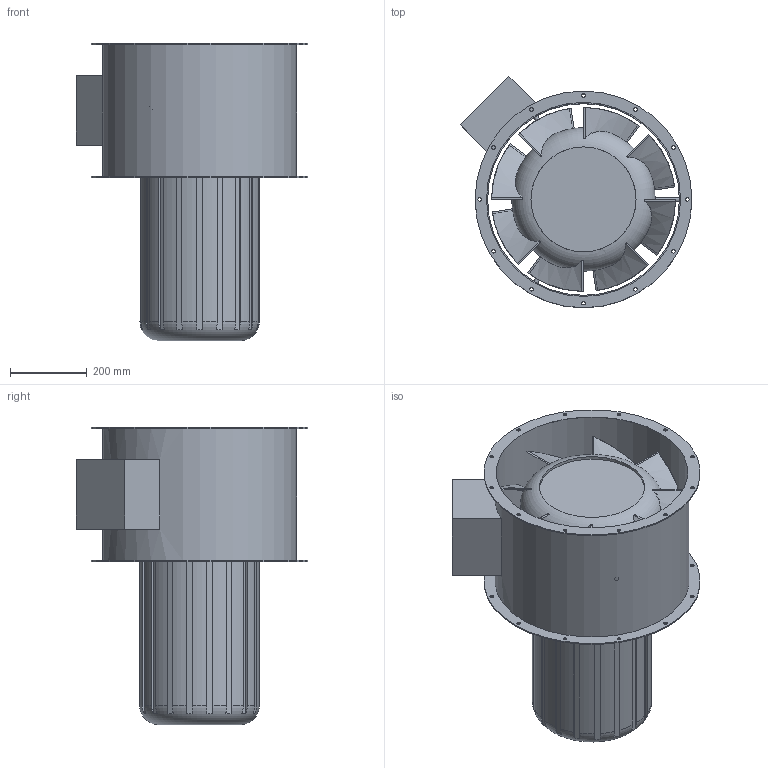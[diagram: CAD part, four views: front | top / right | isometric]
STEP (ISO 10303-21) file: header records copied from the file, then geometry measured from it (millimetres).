
FILE_DESCRIPTION(/* description */ (''),/* implementation_level */ '2;1');
FILE_NAME(/* name */ 'Z:\Output\VARD_500-2_KL-06705-035.stp',/* time_stamp */ '2017-10-09T10:51:51+02:00',/* author */ ('jayeshpanchal'),/* organization */ (''),/* preprocessor_version */ 'ST-DEVELOPER v16.5',/* originating_system */ 'Autodesk Inventor 2017',/* authorisation */ '');
FILE_SCHEMA (('AUTOMOTIVE_DESIGN { 1 0 10303 214 3 1 1 }'));
Length unit declared in the file: millimetre
Products named in the file (1): AVD-RK
Bounding box: 604.23 x 604.23 x 775 mm (x, y, z)
Volume: 59696284.9 mm3; surface area: 2686437.3 mm2
Topology: 1 solids, 1 shells, 165 faces, 488 edges, 331 vertices
Faces by surface type: plane 83, cylinder 52, bspline 24, torus 4, cone 2
Full cylindrical faces by diameter (mm): 9.5 x24, 11.5 x3, 35 x1, 274 x1, 374 x1, 500 x1, 506 x1, 565 x2
Entity records: 6214 total; most frequent: CARTESIAN_POINT 2069, ORIENTED_EDGE 854, DIRECTION 780, EDGE_CURVE 427, AXIS2_PLACEMENT_3D 325, VERTEX_POINT 311, EDGE_LOOP 260, FACE_OUTER_BOUND 162
